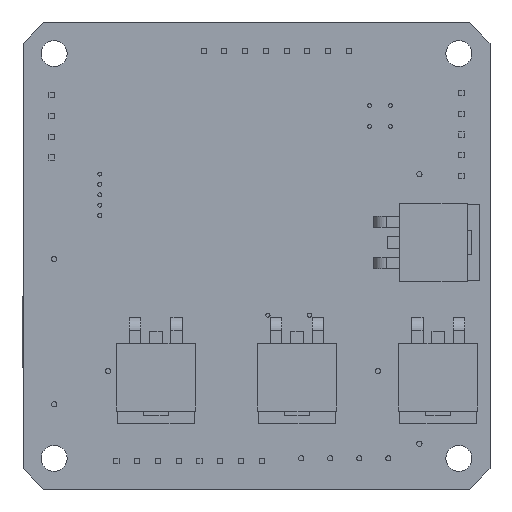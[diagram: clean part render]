
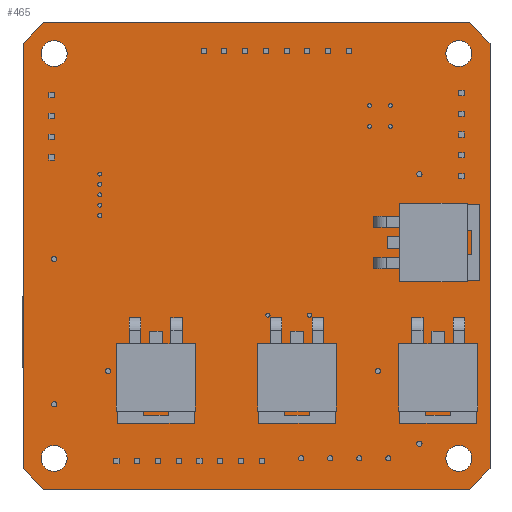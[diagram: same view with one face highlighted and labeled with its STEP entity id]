
A CAD part, front view. The second image highlights one B-rep face of the part: STEP entity #465.
In plain terms, the highlighted planar face has unit normal (0, -1, 0).
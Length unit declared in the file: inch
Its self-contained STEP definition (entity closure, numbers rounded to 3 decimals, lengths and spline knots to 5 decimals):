
#2=DIRECTION('',(0.707,0.,0.707));
#3=VECTOR('',#2,0.14142);
#4=CARTESIAN_POINT('',(2.15,0.,-2.25));
#5=LINE('',#4,#3);
#6=DIRECTION('',(-1.,0.,0.));
#7=VECTOR('',#6,2.05);
#8=CARTESIAN_POINT('',(2.15,0.,-2.25));
#9=LINE('',#8,#7);
#10=DIRECTION('',(0.707,0.,-0.707));
#11=VECTOR('',#10,0.14142);
#12=CARTESIAN_POINT('',(0.,0.,-2.15));
#13=LINE('',#12,#11);
#14=DIRECTION('',(0.,0.,1.));
#15=VECTOR('',#14,2.05);
#16=CARTESIAN_POINT('',(0.,0.,-2.15));
#17=LINE('',#16,#15);
#18=DIRECTION('',(-0.707,0.,-0.707));
#19=VECTOR('',#18,0.14142);
#20=CARTESIAN_POINT('',(0.1,0.,0.));
#21=LINE('',#20,#19);
#22=DIRECTION('',(1.,0.,0.));
#23=VECTOR('',#22,2.05);
#24=CARTESIAN_POINT('',(0.1,0.,0.));
#25=LINE('',#24,#23);
#26=DIRECTION('',(-0.707,0.,0.707));
#27=VECTOR('',#26,0.14142);
#28=CARTESIAN_POINT('',(2.25,0.,-0.1));
#29=LINE('',#28,#27);
#30=DIRECTION('',(0.,0.,-1.));
#31=VECTOR('',#30,2.05);
#32=CARTESIAN_POINT('',(2.25,0.,-0.1));
#33=LINE('',#32,#31);
#34=CARTESIAN_POINT('',(0.15,0.,-2.1));
#35=DIRECTION('',(0.,1.,0.));
#36=DIRECTION('',(1.,0.,0.));
#37=AXIS2_PLACEMENT_3D('',#34,#35,#36);
#39=CARTESIAN_POINT('',(0.15,0.,-2.1));
#40=DIRECTION('',(0.,1.,0.));
#41=DIRECTION('',(-1.,0.,0.));
#42=AXIS2_PLACEMENT_3D('',#39,#40,#41);
#44=CARTESIAN_POINT('',(2.1,0.,-0.15));
#45=DIRECTION('',(0.,1.,0.));
#46=DIRECTION('',(1.,0.,0.));
#47=AXIS2_PLACEMENT_3D('',#44,#45,#46);
#49=CARTESIAN_POINT('',(2.1,0.,-0.15));
#50=DIRECTION('',(0.,1.,0.));
#51=DIRECTION('',(-1.,0.,0.));
#52=AXIS2_PLACEMENT_3D('',#49,#50,#51);
#54=CARTESIAN_POINT('',(2.1,0.,-2.1));
#55=DIRECTION('',(0.,1.,0.));
#56=DIRECTION('',(1.,0.,0.));
#57=AXIS2_PLACEMENT_3D('',#54,#55,#56);
#59=CARTESIAN_POINT('',(2.1,0.,-2.1));
#60=DIRECTION('',(0.,1.,0.));
#61=DIRECTION('',(-1.,0.,0.));
#62=AXIS2_PLACEMENT_3D('',#59,#60,#61);
#64=CARTESIAN_POINT('',(0.15,0.,-0.15));
#65=DIRECTION('',(0.,1.,0.));
#66=DIRECTION('',(1.,0.,0.));
#67=AXIS2_PLACEMENT_3D('',#64,#65,#66);
#69=CARTESIAN_POINT('',(0.15,0.,-0.15));
#70=DIRECTION('',(0.,1.,0.));
#71=DIRECTION('',(-1.,0.,0.));
#72=AXIS2_PLACEMENT_3D('',#69,#70,#71);
#322=CARTESIAN_POINT('',(2.15,0.,-2.25));
#323=CARTESIAN_POINT('',(2.25,0.,-2.15));
#324=VERTEX_POINT('',#322);
#325=VERTEX_POINT('',#323);
#330=CARTESIAN_POINT('',(0.,0.,-2.15));
#331=CARTESIAN_POINT('',(0.1,0.,-2.25));
#332=VERTEX_POINT('',#330);
#333=VERTEX_POINT('',#331);
#338=CARTESIAN_POINT('',(0.1,0.,0.));
#339=CARTESIAN_POINT('',(0.,0.,-0.1));
#340=VERTEX_POINT('',#338);
#341=VERTEX_POINT('',#339);
#346=CARTESIAN_POINT('',(2.25,0.,-0.1));
#347=CARTESIAN_POINT('',(2.15,0.,0.));
#348=VERTEX_POINT('',#346);
#349=VERTEX_POINT('',#347);
#354=CARTESIAN_POINT('',(0.2125,0.,-2.1));
#355=CARTESIAN_POINT('',(0.0875,0.,-2.1));
#356=VERTEX_POINT('',#354);
#357=VERTEX_POINT('',#355);
#358=CARTESIAN_POINT('',(2.1625,0.,-0.15));
#359=CARTESIAN_POINT('',(2.0375,0.,-0.15));
#360=VERTEX_POINT('',#358);
#361=VERTEX_POINT('',#359);
#386=CARTESIAN_POINT('',(2.1625,0.,-2.1));
#387=CARTESIAN_POINT('',(2.0375,0.,-2.1));
#388=VERTEX_POINT('',#386);
#389=VERTEX_POINT('',#387);
#390=CARTESIAN_POINT('',(0.2125,0.,-0.15));
#391=CARTESIAN_POINT('',(0.0875,0.,-0.15));
#392=VERTEX_POINT('',#390);
#393=VERTEX_POINT('',#391);
#418=CARTESIAN_POINT('',(0.,0.,0.));
#419=DIRECTION('',(0.,1.,0.));
#420=DIRECTION('',(1.,0.,0.));
#421=AXIS2_PLACEMENT_3D('',#418,#419,#420);
#422=PLANE('',#421);
#424=ORIENTED_EDGE('',*,*,#423,.F.);
#426=ORIENTED_EDGE('',*,*,#425,.T.);
#428=ORIENTED_EDGE('',*,*,#427,.F.);
#430=ORIENTED_EDGE('',*,*,#429,.T.);
#432=ORIENTED_EDGE('',*,*,#431,.F.);
#434=ORIENTED_EDGE('',*,*,#433,.T.);
#436=ORIENTED_EDGE('',*,*,#435,.F.);
#438=ORIENTED_EDGE('',*,*,#437,.T.);
#439=EDGE_LOOP('',(#424,#426,#428,#430,#432,#434,#436,#438));
#440=FACE_OUTER_BOUND('',#439,.F.);
#442=ORIENTED_EDGE('',*,*,#441,.F.);
#444=ORIENTED_EDGE('',*,*,#443,.F.);
#445=EDGE_LOOP('',(#442,#444));
#446=FACE_BOUND('',#445,.F.);
#448=ORIENTED_EDGE('',*,*,#447,.F.);
#450=ORIENTED_EDGE('',*,*,#449,.F.);
#451=EDGE_LOOP('',(#448,#450));
#452=FACE_BOUND('',#451,.F.);
#454=ORIENTED_EDGE('',*,*,#453,.F.);
#456=ORIENTED_EDGE('',*,*,#455,.F.);
#457=EDGE_LOOP('',(#454,#456));
#458=FACE_BOUND('',#457,.F.);
#460=ORIENTED_EDGE('',*,*,#459,.F.);
#462=ORIENTED_EDGE('',*,*,#461,.F.);
#463=EDGE_LOOP('',(#460,#462));
#464=FACE_BOUND('',#463,.F.);
#465=ADVANCED_FACE('',(#440,#446,#452,#458,#464),#422,.F.);
#38=CIRCLE('',#37,0.0625);
#43=CIRCLE('',#42,0.0625);
#48=CIRCLE('',#47,0.0625);
#53=CIRCLE('',#52,0.0625);
#58=CIRCLE('',#57,0.0625);
#63=CIRCLE('',#62,0.0625);
#68=CIRCLE('',#67,0.0625);
#73=CIRCLE('',#72,0.0625);
#423=EDGE_CURVE('',#324,#325,#5,.T.);
#425=EDGE_CURVE('',#324,#333,#9,.T.);
#427=EDGE_CURVE('',#332,#333,#13,.T.);
#429=EDGE_CURVE('',#332,#341,#17,.T.);
#431=EDGE_CURVE('',#340,#341,#21,.T.);
#433=EDGE_CURVE('',#340,#349,#25,.T.);
#435=EDGE_CURVE('',#348,#349,#29,.T.);
#437=EDGE_CURVE('',#348,#325,#33,.T.);
#441=EDGE_CURVE('',#356,#357,#38,.T.);
#443=EDGE_CURVE('',#357,#356,#43,.T.);
#447=EDGE_CURVE('',#360,#361,#48,.T.);
#449=EDGE_CURVE('',#361,#360,#53,.T.);
#453=EDGE_CURVE('',#388,#389,#58,.T.);
#455=EDGE_CURVE('',#389,#388,#63,.T.);
#459=EDGE_CURVE('',#392,#393,#68,.T.);
#461=EDGE_CURVE('',#393,#392,#73,.T.);
